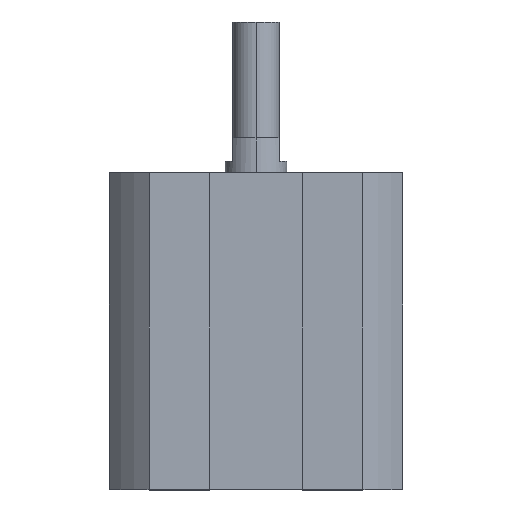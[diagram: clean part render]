
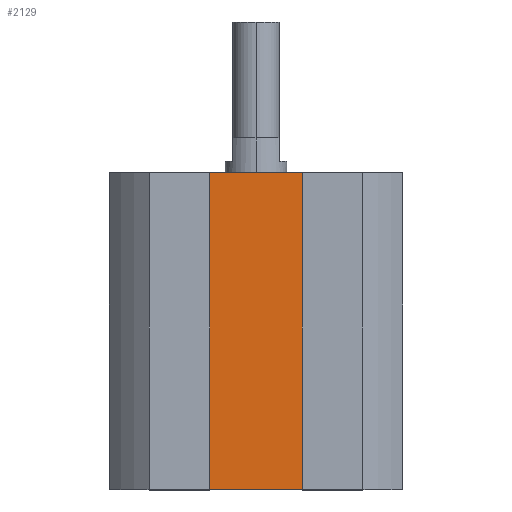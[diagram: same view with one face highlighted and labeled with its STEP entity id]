
A CAD part, top view. The second image highlights one B-rep face of the part: STEP entity #2129.
In plain terms, the highlighted planar face has unit normal (0, 0, 1).
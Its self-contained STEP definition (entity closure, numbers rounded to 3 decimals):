
#118 = CARTESIAN_POINT ( 'NONE',  ( -7.75, -41., 12.75 ) ) ;
#162 = EDGE_CURVE ( 'NONE', #2189, #312, #214, .T. ) ;
#214 = LINE ( 'NONE', #1322, #1046 ) ;
#273 = DIRECTION ( 'NONE',  ( 1., 0., 0. ) ) ;
#312 = VERTEX_POINT ( 'NONE', #1790 ) ;
#364 = VECTOR ( 'NONE', #1377, 1000. ) ;
#440 = LINE ( 'NONE', #952, #2083 ) ;
#499 = DIRECTION ( 'NONE',  ( 0., 1., 0. ) ) ;
#602 = PLANE ( 'NONE',  #710 ) ;
#629 = EDGE_LOOP ( 'NONE', ( #836, #2215, #1229, #1717 ) ) ;
#710 = AXIS2_PLACEMENT_3D ( 'NONE', #2100, #2717, #735 ) ;
#726 = DIRECTION ( 'NONE',  ( 0., 1., 0. ) ) ;
#735 = DIRECTION ( 'NONE',  ( 1., 0., 0. ) ) ;
#802 = LINE ( 'NONE', #1393, #364 ) ;
#836 = ORIENTED_EDGE ( 'NONE', *, *, #162, .F. ) ;
#952 = CARTESIAN_POINT ( 'NONE',  ( -7.75, -41., 12.75 ) ) ;
#1013 = CARTESIAN_POINT ( 'NONE',  ( 7.75, -41., 12.75 ) ) ;
#1046 = VECTOR ( 'NONE', #273, 1000. ) ;
#1158 = CARTESIAN_POINT ( 'NONE',  ( -7.75, 0., 12.75 ) ) ;
#1229 = ORIENTED_EDGE ( 'NONE', *, *, #1417, .T. ) ;
#1274 = VECTOR ( 'NONE', #726, 1000. ) ;
#1289 = EDGE_CURVE ( 'NONE', #2098, #312, #1940, .T. ) ;
#1322 = CARTESIAN_POINT ( 'NONE',  ( 0., 0., 12.75 ) ) ;
#1377 = DIRECTION ( 'NONE',  ( 1., 0., 0. ) ) ;
#1393 = CARTESIAN_POINT ( 'NONE',  ( 0., -41., 12.75 ) ) ;
#1417 = EDGE_CURVE ( 'NONE', #2256, #2098, #802, .T. ) ;
#1717 = ORIENTED_EDGE ( 'NONE', *, *, #1289, .T. ) ;
#1790 = CARTESIAN_POINT ( 'NONE',  ( 7.75, 0., 12.75 ) ) ;
#1940 = LINE ( 'NONE', #2237, #1274 ) ;
#2083 = VECTOR ( 'NONE', #499, 1000. ) ;
#2098 = VERTEX_POINT ( 'NONE', #1013 ) ;
#2100 = CARTESIAN_POINT ( 'NONE',  ( 0., -41., 12.75 ) ) ;
#2129 = ADVANCED_FACE ( 'NONE', ( #2342 ), #602, .T. ) ;
#2189 = VERTEX_POINT ( 'NONE', #1158 ) ;
#2215 = ORIENTED_EDGE ( 'NONE', *, *, #2223, .F. ) ;
#2223 = EDGE_CURVE ( 'NONE', #2256, #2189, #440, .T. ) ;
#2237 = CARTESIAN_POINT ( 'NONE',  ( 7.75, -41., 12.75 ) ) ;
#2256 = VERTEX_POINT ( 'NONE', #118 ) ;
#2342 = FACE_OUTER_BOUND ( 'NONE', #629, .T. ) ;
#2717 = DIRECTION ( 'NONE',  ( 0., 0., 1. ) ) ;
